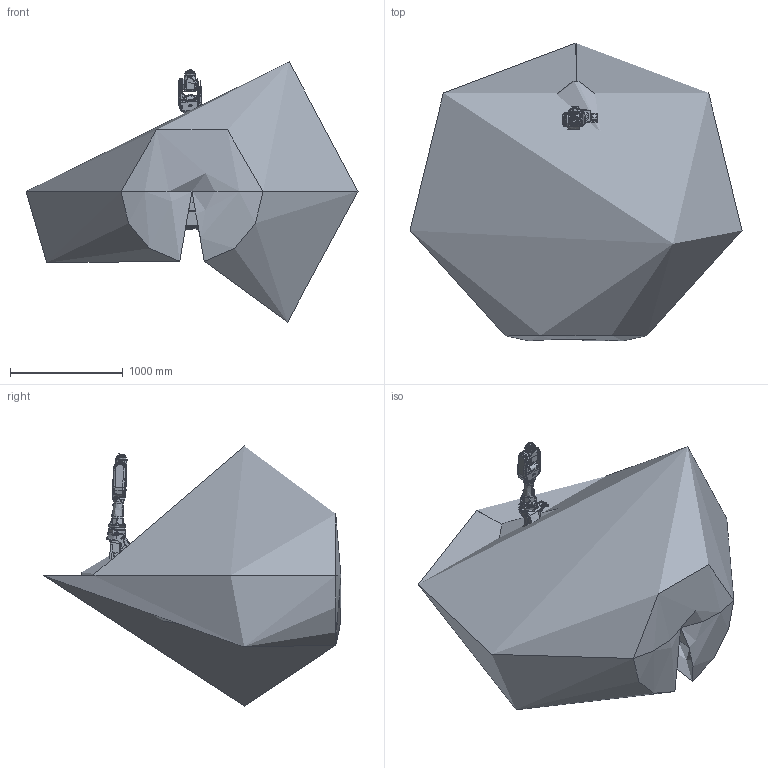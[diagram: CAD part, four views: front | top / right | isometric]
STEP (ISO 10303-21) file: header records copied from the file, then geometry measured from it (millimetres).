
FILE_DESCRIPTION (( 'STEP AP214' ), '1' );
FILE_NAME ('阹陎暱R151-12-E.STEP', '2020-12-01T10:49:02', ( '' ), ( '' ), 'SwSTEP 2.0', 'SolidWorks 2016', '' );
FILE_SCHEMA (( 'AUTOMOTIVE_DESIGN' ));
Length unit declared in the file: millimetre
Products named in the file (9): 阹陎暱R151-12-E--7_1; 阹陎暱R151-12-E-05-001_1; 阹陎暱R151-12-E-01_1; 阹陎暱R151-12-E-04_1; 阹陎暱R151-12-E; 阹陎暱R151-12-E-08_1; 阹陎暱R151-12-E- 6_1; 阹陎暱R151-12-E-02_1; 阹陎暱R151-12-E-002_1
Assembly tree (8 placements, depth 2):
  阹陎暱R151-12-E
    阹陎暱R151-12-E-01_1
    阹陎暱R151-12-E-02_1
    阹陎暱R151-12-E-002_1
    阹陎暱R151-12-E-04_1
    阹陎暱R151-12-E-05-001_1
    阹陎暱R151-12-E- 6_1
    阹陎暱R151-12-E--7_1
    阹陎暱R151-12-E-08_1
Bounding box: 2942.41 x 2638.64 x 2306.31 mm (x, y, z)
Topology: 8 solids, 690 shells, 8383 faces, 26207 edges, 18311 vertices
Faces by surface type: cylinder 3034, plane 2907, bspline 2094, cone 308, torus 38, sphere 2
Entity records: 527746 total; most frequent: CARTESIAN_POINT 257475, ORIENTED_EDGE 44158, DIRECTION 37714, EDGE_CURVE 25920, VERTEX_POINT 18306, AXIS2_PLACEMENT_3D 12623, VECTOR 12468, LINE 12468
